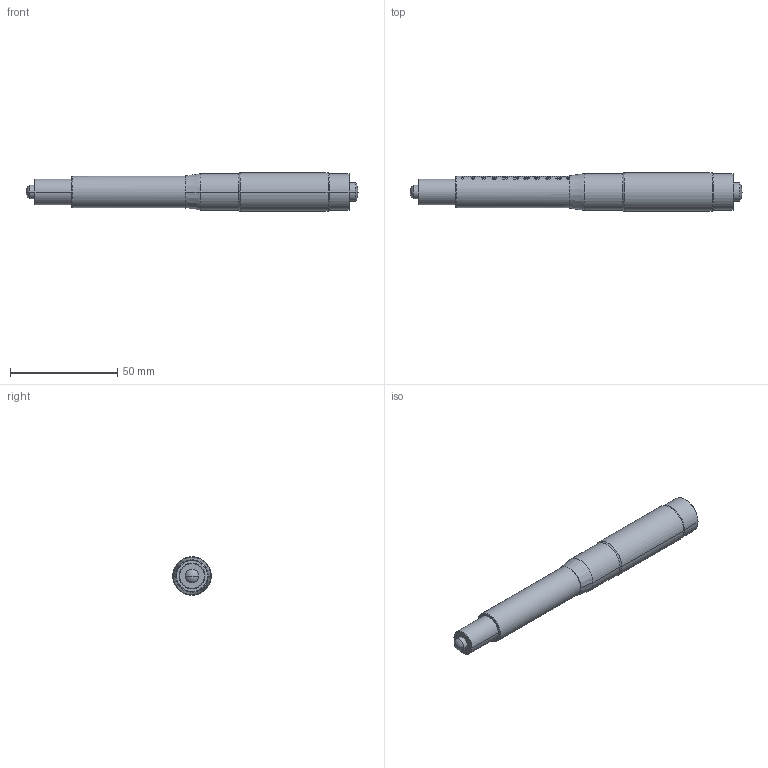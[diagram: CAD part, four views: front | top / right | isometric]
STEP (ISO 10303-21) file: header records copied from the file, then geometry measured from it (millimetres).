
FILE_DESCRIPTION((''),'2;1');
FILE_NAME('MICRO-HEAD-50-R-NEW','2021-07-12T18:17:34',('windows10'),(''),'CREO PARAMETRIC BY PTC INC, 2018260','CREO PARAMETRIC BY PTC INC, 2018260','');
FILE_SCHEMA(('CONFIG_CONTROL_DESIGN'));
Length unit declared in the file: millimetre
Products named in the file (1): MICRO-HEAD-50-R-NEW
Bounding box: 155 x 18 x 18 mm (x, y, z)
Volume: 21507.8 mm3; surface area: 12332.7 mm2
Topology: 1 solids, 3 shells, 1300 faces, 3476 edges, 2308 vertices
Faces by surface type: plane 1130, cylinder 150, cone 10, torus 6, sphere 4
Entity records: 40323 total; most frequent: CARTESIAN_POINT 9256, ORIENTED_EDGE 6940, DIRECTION 5652, EDGE_CURVE 3472, VERTEX_POINT 2308, AXIS2_PLACEMENT_3D 1953, VECTOR 1746, LINE 1746
